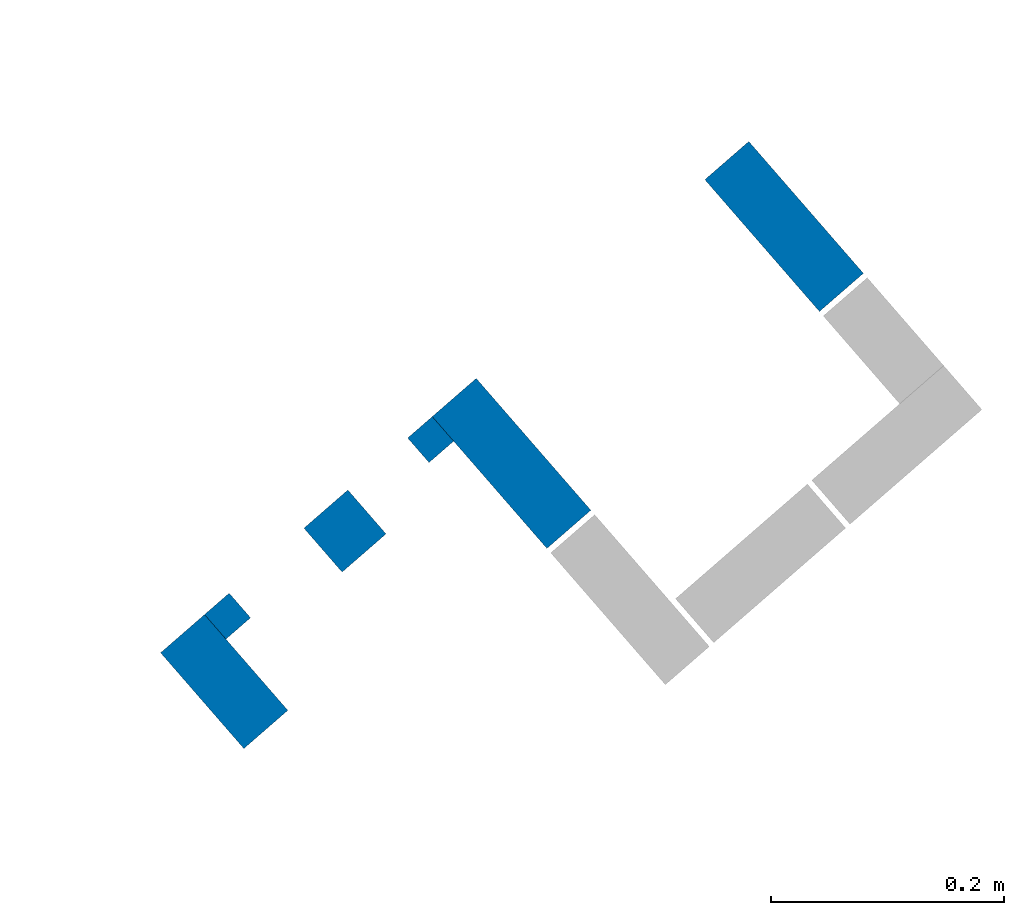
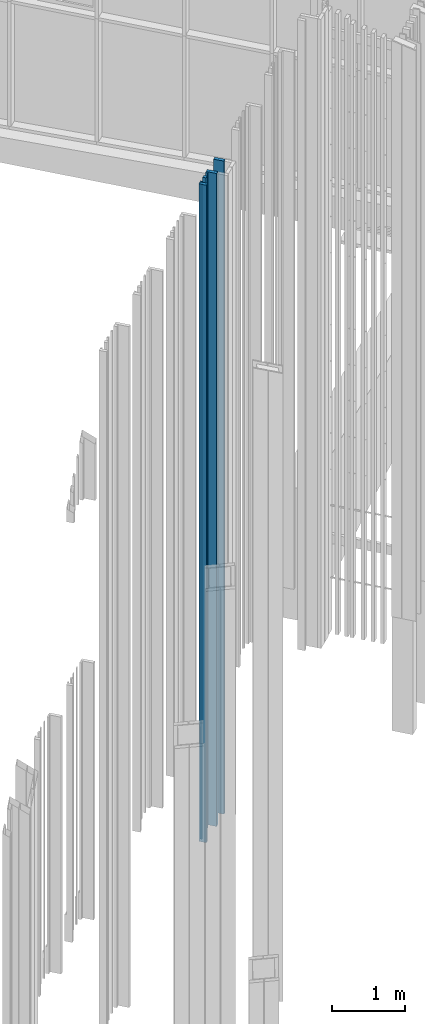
# One storey, part 267 of 390: 6 walls.
"""IFC2X3 building model written with IfcOpenShell, lengths in millimetres."""

from ifc_helpers import new_model, entity, si_unit, converted_unit, derived_unit, money_unit, direction, frame, origin_with_axes, place, context, subcontext, project, spatial, faceted_brep, material, type_object, element, save


model = new_model("IFC2X3")

# Units and contexts
model_context = context("Model", 3, precision=1e-05, world=origin_with_axes(), true_north=direction((0.0, 1.0)))
body_context = subcontext(model_context, "Body", "Model", "MODEL_VIEW")
ifc_project = project(units=[si_unit("LENGTHUNIT", "METRE", prefix="MILLI"), si_unit("AREAUNIT", "SQUARE_METRE"), si_unit("VOLUMEUNIT", "CUBIC_METRE"), converted_unit("PLANEANGLEUNIT", "DEGREE", entity("IfcPlaneAngleMeasure", 0.0174532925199), si_unit("PLANEANGLEUNIT", "RADIAN"), dimensions=[0, 0, 0, 0, 0, 0, 0]), si_unit("SOLIDANGLEUNIT", "STERADIAN"), money_unit("EUR"), converted_unit("TIMEUNIT", "Year", entity("IfcTimeMeasure", 31556926.0), si_unit("TIMEUNIT", "SECOND"), dimensions=[0, 0, 1, 0, 0, 0, 0]), si_unit("MASSUNIT", "GRAM", prefix="KILO"), si_unit("THERMODYNAMICTEMPERATUREUNIT", "DEGREE_CELSIUS"), si_unit("LUMINOUSINTENSITYUNIT", "LUMEN"), si_unit("ENERGYUNIT", "JOULE", prefix="MEGA"), derived_unit("THERMALCONDUCTANCEUNIT", [(si_unit("POWERUNIT", "WATT"), 1), (si_unit("LENGTHUNIT", "METRE"), -1), (si_unit("THERMODYNAMICTEMPERATUREUNIT", "KELVIN"), -1)]), derived_unit("SPECIFICHEATCAPACITYUNIT", [(si_unit("ENERGYUNIT", "JOULE"), 1), (si_unit("MASSUNIT", "GRAM", prefix="KILO"), -1), (si_unit("THERMODYNAMICTEMPERATUREUNIT", "KELVIN"), -1)]), derived_unit("MASSDENSITYUNIT", [(si_unit("MASSUNIT", "GRAM", prefix="KILO"), 1), (si_unit("VOLUMEUNIT", "CUBIC_METRE"), -1)])], contexts=[model_context])

# Site, building, storey
site_placement = place(None, origin_with_axes())
site = spatial("IfcSite", under=ifc_project, at=site_placement, Name="Site", CompositionType="ELEMENT")
building_placement = place(site_placement, origin_with_axes())
building = spatial("IfcBuilding", under=site, at=building_placement, Name="Building", CompositionType="ELEMENT")
storey_placement = place(building_placement, origin_with_axes())
storey = spatial("IfcBuildingStorey", under=building, at=storey_placement, Name="1 korrus", CompositionType="ELEMENT", Elevation=0.0)

# Walls
ifc_material = material(Name="Site specified")
wall_type_1 = type_object("IfcWallType", Name="Puitfassaadi ribistik", PredefinedType="NOTDEFINED")
wall_1_placement = place(storey_placement, frame((169250.874713, 91772.7325507, -1039.330176), z_axis=(0.0, 0.0, 1.0), x_axis=(-0.754709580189, -0.65605902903, 0.0)))
element("IfcWall", 1, at=wall_1_placement, inside=storey, type_object=wall_type_1, material=ifc_material, Name="Site specified", context=body_context, shape_type="Brep", body=[
    faceted_brep([(-14.0, -14.0, 10904.330176), (-14.0, -14.0, 0.0), (14.0, -14.0, 0.0), (14.0, -14.0, 10904.330176), (-14.0, 14.0, 10904.330176), (-14.0, 14.0, 0.0), (14.0, 14.0, 0.0), (14.0, 14.0, 10904.330176)], [[[0, 1, 2, 3]], [[4, 5, 1, 0]], [[2, 1, 5, 6]], [[3, 2, 6, 7]], [[4, 0, 3, 7]], [[7, 6, 5, 4]]]),
])
wall_2_placement = place(storey_placement, frame((169076.536825, 91621.1829363, -1065.19427493), z_axis=(0.0, 0.0, 1.0), x_axis=(-0.754709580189, -0.65605902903, 0.0)))
element("IfcWall", 2, at=wall_2_placement, inside=storey, type_object=wall_type_1, material=ifc_material, Name="Site specified", context=body_context, shape_type="Brep", body=[
    faceted_brep([(-14.0, -14.0, 10930.1942749), (-14.0, -14.0, 0.0), (14.0, -14.0, 0.0), (14.0, -14.0, 10930.1942749), (-14.0, 14.0, 10930.1942749), (-14.0, 14.0, 0.0), (14.0, 14.0, 0.0), (14.0, 14.0, 10930.1942749)], [[[0, 1, 2, 3]], [[4, 5, 1, 0]], [[2, 1, 5, 6]], [[3, 2, 6, 7]], [[4, 0, 3, 7]], [[7, 6, 5, 4]]]),
])
wall_3_placement = place(storey_placement, frame((169177.337462, 91694.2324505, -1052.54213818), z_axis=(0.0, 0.0, 1.0), x_axis=(-0.754709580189, -0.65605902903, 0.0)))
element("IfcWall", 3, at=wall_3_placement, inside=storey, type_object=wall_type_1, material=ifc_material, Name="Site specified", context=body_context, shape_type="Brep", body=[
    faceted_brep([(-25.0, -25.0, 10917.5421382), (-25.0, -25.0, 0.0), (25.0, -25.0, 0.0), (25.0, -25.0, 10917.5421382), (-25.0, 25.0, 10917.5421382), (-25.0, 25.0, 0.0), (25.0, 25.0, 0.0), (25.0, 25.0, 10917.5421382)], [[[0, 1, 2, 3]], [[4, 5, 1, 0]], [[2, 1, 5, 6]], [[3, 2, 6, 7]], [[4, 0, 3, 7]], [[7, 6, 5, 4]]]),
])
wall_4_placement = place(storey_placement, frame((169073.673542, 91565.0308962, -1071.05555579), z_axis=(0.0, 0.0, 1.0), x_axis=(-0.754709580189, -0.65605902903, 0.0)))
element("IfcWall", 4, at=wall_4_placement, inside=storey, type_object=wall_type_1, material=ifc_material, Name="Site specified", context=body_context, shape_type="Brep", body=[
    faceted_brep([(-25.0, -54.5, 10936.0555558), (-25.0, -54.5, 0.0), (25.0, -54.5, 0.0), (25.0, -54.5, 10936.0555558), (-25.0, 54.5, 10936.0555558), (-25.0, 54.5, 0.0), (25.0, 54.5, 0.0), (25.0, 54.5, 10936.0555558)], [[[0, 1, 2, 3]], [[4, 5, 1, 0]], [[2, 1, 5, 6]], [[3, 2, 6, 7]], [[4, 0, 3, 7]], [[7, 6, 5, 4]]]),
])
wall_type_2 = type_object("IfcWallType", Name="Puitfassaadi ribisik", PredefinedType="NOTDEFINED")
for number, where, z_axis, x_axis, name in (
    (5, (169320.328033, 91752.2815162, -995.478632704), (0.0, 0.0, 1.0), (-0.754709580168, -0.656059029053, 0.0), "Site specified"),
    (6, (169554.287982, 91955.6598888, -995.478632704), (0.0, 0.0, 1.0), (-0.754709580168, -0.656059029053, 0.0), "Site specified"),
):
    element("IfcWall", number, at=place(storey_placement, frame(where, z_axis=z_axis, x_axis=x_axis)), inside=storey, type_object=wall_type_2, material=ifc_material, Name=name, context=body_context, shape_type="Brep", body=[
        faceted_brep([(-25.0, -75.0, 10860.4786276), (-25.0, -75.0, 0.0), (25.0, -75.0, 0.0), (25.0, -75.0, 10860.4786276), (-25.0, 75.0, 10860.4786276), (-25.0, 75.0, 0.0), (25.0, 75.0, 0.0), (25.0, 75.0, 10860.4786276)], [[[0, 1, 2, 3]], [[4, 5, 1, 0]], [[2, 1, 5, 6]], [[3, 2, 6, 7]], [[4, 0, 3, 7]], [[7, 6, 5, 4]]]),
    ])

save(model, "model.ifc")
